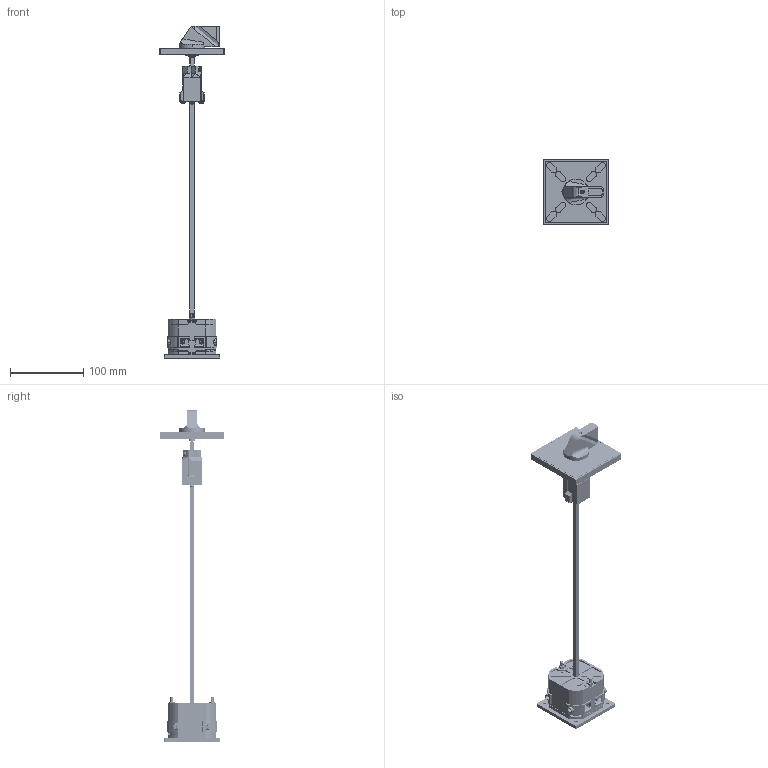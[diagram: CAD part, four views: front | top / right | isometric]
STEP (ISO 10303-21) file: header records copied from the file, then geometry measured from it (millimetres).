
FILE_DESCRIPTION (( 'STEP AP214' ), '1' );
FILE_NAME ('4G40,63,80-XXXX-OU-S7-R212,R214,S24 1ê.STEP', '2023-02-14T13:04:11', ( '' ), ( '' ), 'SwSTEP 2.0', 'SolidWorks 2018', '' );
FILE_SCHEMA (( 'AUTOMOTIVE_DESIGN' ));
Length unit declared in the file: millimetre
Products named in the file (1): 4G40,63,80-XXXX-OU-S7-R212,R214,S24 1ê
Bounding box: 88 x 88 x 452.12 mm (x, y, z)
Volume: 260326.9 mm3; surface area: 164906.2 mm2
Topology: 49 solids, 49 shells, 3162 faces, 8400 edges, 5390 vertices
Faces by surface type: plane 1626, cylinder 1262, torus 103, cone 84, bspline 65, sphere 22
Entity records: 200867 total; most frequent: CARTESIAN_POINT 88766, ORIENTED_EDGE 16758, DIRECTION 15311, EDGE_CURVE 8379, VERTEX_POINT 5388, AXIS2_PLACEMENT_3D 5172, LINE 4967, VECTOR 4967
